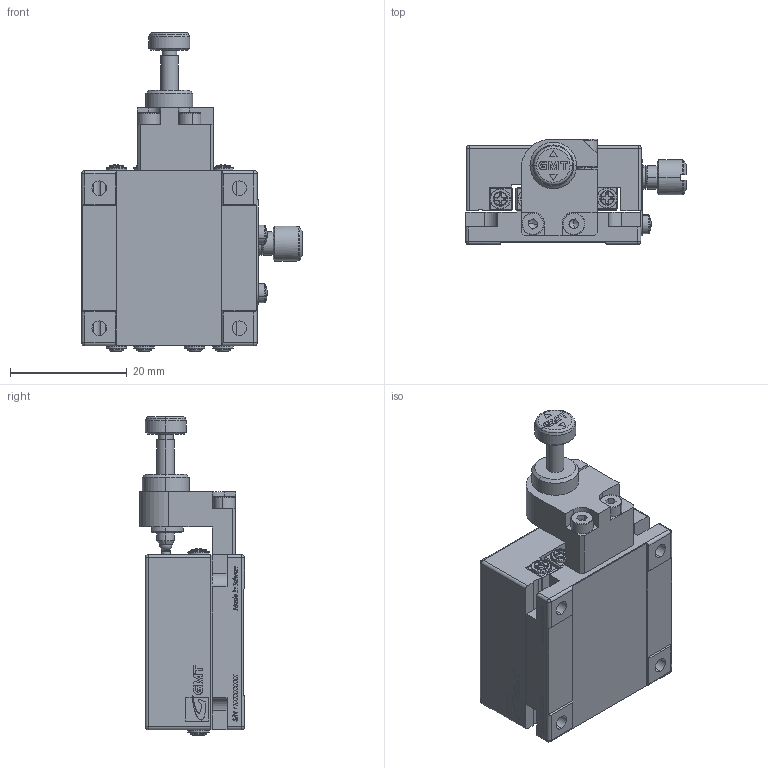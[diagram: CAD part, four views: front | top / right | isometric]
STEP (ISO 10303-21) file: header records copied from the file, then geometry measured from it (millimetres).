
FILE_DESCRIPTION (( 'STEP AP203' ), '1' );
FILE_NAME ('MX30-AC-18(«¬¿ý).STEP', '2013-06-17T07:59:16', ( '123' ), ( '' ), 'SwSTEP 2.0', 'SolidWorks 2013', '' );
FILE_SCHEMA (( 'CONFIG_CONTROL_DESIGN' ));
Length unit declared in the file: millimetre
Products named in the file (3): Group1^MX30-AC-18(型錄); Group2^MX30-AC-18(型錄); MX30-AC-18(型錄)
Assembly tree (2 placements, depth 2):
  MX30-AC-18(型錄)
    Group1^MX30-AC-18(型錄)
    Group2^MX30-AC-18(型錄)
Bounding box: 37.77 x 18 x 54.66 mm (x, y, z)
Volume: 15574.7 mm3; surface area: 8796.8 mm2
Topology: 2 solids, 2 shells, 2093 faces, 5655 edges, 3662 vertices
Faces by surface type: plane 1340, bspline 308, cylinder 270, cone 79, torus 66, sphere 30
Entity records: 73234 total; most frequent: CARTESIAN_POINT 21941, ORIENTED_EDGE 11258, DIRECTION 9501, EDGE_CURVE 5629, LINE 3881, VECTOR 3881, VERTEX_POINT 3658, AXIS2_PLACEMENT_3D 2810
